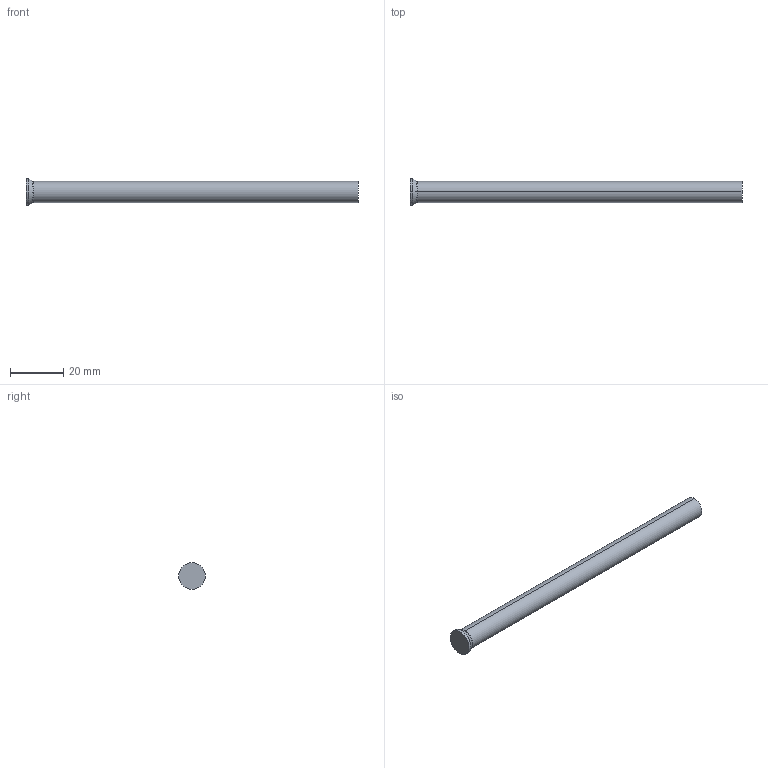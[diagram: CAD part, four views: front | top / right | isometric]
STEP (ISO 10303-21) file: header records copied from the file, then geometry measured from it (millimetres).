
FILE_DESCRIPTION (( 'STEP AP214' ), '1' );
FILE_NAME ('D-8x125.STEP', '2020-06-08T17:25:25', ( 'August' ), ( '' ), 'SwSTEP 2.0', 'SolidWorks 2018', '' );
FILE_SCHEMA (( 'AUTOMOTIVE_DESIGN' ));
Length unit declared in the file: millimetre
Products named in the file (1): D-8x125
Bounding box: 125 x 10 x 10 mm (x, y, z)
Volume: 6335.1 mm3; surface area: 3289.4 mm2
Topology: 1 solids, 1 shells, 10 faces, 18 edges, 10 vertices
Faces by surface type: cylinder 4, torus 2, cone 2, plane 2
Entity records: 280 total; most frequent: DIRECTION 52, CARTESIAN_POINT 39, ORIENTED_EDGE 36, AXIS2_PLACEMENT_3D 23, EDGE_CURVE 18, CIRCLE 12, VERTEX_POINT 10, EDGE_LOOP 10
